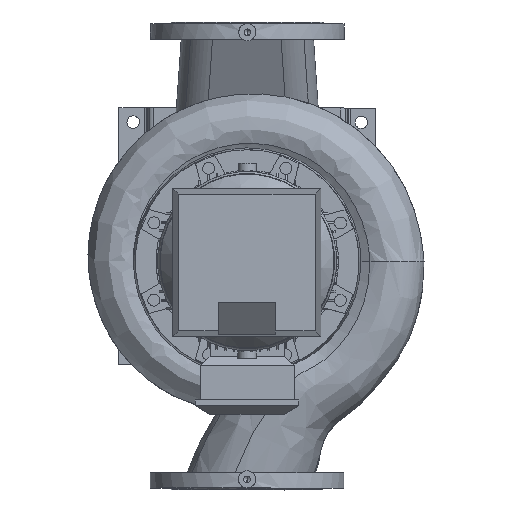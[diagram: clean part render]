
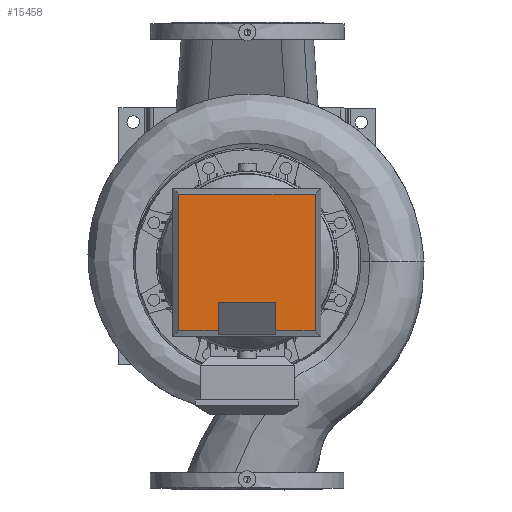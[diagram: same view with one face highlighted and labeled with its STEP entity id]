
A CAD part, top view. The second image highlights one B-rep face of the part: STEP entity #15458.
In plain terms, the highlighted planar face has unit normal (0, 0, 1) as drawn and (0, 1, 0) by its records, which use the part's own axes.
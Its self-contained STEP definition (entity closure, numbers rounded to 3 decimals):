
#15458=ADVANCED_FACE('',(#30445),#30446,.T.);
#15468=EDGE_CURVE('',#30461,#30458,#30462,.T.);
#30445=FACE_OUTER_BOUND('',#55354,.T.);
#30446=PLANE('',#55355);
#30458=VERTEX_POINT('',#55368);
#30461=VERTEX_POINT('',#55373);
#30462=LINE('',#55374,#55375);
#55354=EDGE_LOOP('',(#77441,#77442,#77443,#77444,#77445,#77446,#77447,#77448));
#55355=AXIS2_PLACEMENT_3D('',#77449,#77450,#77451);
#55368=CARTESIAN_POINT('',(-50.0,90.0,199.485));
#55373=CARTESIAN_POINT('',(-50.0,90.0,250.0));
#55374=CARTESIAN_POINT('',(-50.0,90.0,127.834));
#55375=VECTOR('',#77477,1.0);
#77441=ORIENTED_EDGE('',*,*,#81538,.T.);
#77442=ORIENTED_EDGE('',*,*,#81544,.F.);
#77443=ORIENTED_EDGE('',*,*,#81552,.F.);
#77444=ORIENTED_EDGE('',*,*,#81554,.F.);
#77445=ORIENTED_EDGE('',*,*,#81546,.F.);
#77446=ORIENTED_EDGE('',*,*,#81540,.F.);
#77447=ORIENTED_EDGE('',*,*,#15468,.T.);
#77448=ORIENTED_EDGE('',*,*,#81534,.T.);
#77449=CARTESIAN_POINT('',(0.0,90.0,0.0));
#77450=DIRECTION('',(0.0,1.0,-0.0));
#77451=DIRECTION('',(-1.0,0.0,0.0));
#77477=DIRECTION('',(0.0,-0.0,-1.0));
#81534=EDGE_CURVE('',#30458,#86772,#86775,.T.);
#81538=EDGE_CURVE('',#86772,#86778,#86780,.T.);
#81540=EDGE_CURVE('',#30461,#86782,#86783,.T.);
#81544=EDGE_CURVE('',#86788,#86778,#86790,.T.);
#81546=EDGE_CURVE('',#86782,#86792,#86793,.T.);
#81552=EDGE_CURVE('',#86798,#86788,#86800,.T.);
#81554=EDGE_CURVE('',#86792,#86798,#86802,.T.);
#86772=VERTEX_POINT('',#99278);
#86775=LINE('',#99282,#99283);
#86778=VERTEX_POINT('',#99287);
#86780=LINE('',#99290,#99291);
#86782=VERTEX_POINT('',#99293);
#86783=LINE('',#99294,#99295);
#86788=VERTEX_POINT('',#99302);
#86790=LINE('',#99305,#99306);
#86792=VERTEX_POINT('',#99308);
#86793=LINE('',#99309,#99310);
#86798=VERTEX_POINT('',#99318);
#86800=LINE('',#99321,#99322);
#86802=LINE('',#99324,#99325);
#99278=CARTESIAN_POINT('',(50.0,90.0,199.485));
#99282=CARTESIAN_POINT('',(-25.0,90.0,199.485));
#99283=VECTOR('',#102379,1.0);
#99287=CARTESIAN_POINT('',(50.0,90.0,250.0));
#99290=CARTESIAN_POINT('',(50.0,90.0,127.834));
#99291=VECTOR('',#102382,1.0);
#99293=CARTESIAN_POINT('',(-120.0,90.0,250.0));
#99294=CARTESIAN_POINT('',(65.0,90.0,250.0));
#99295=VECTOR('',#102383,1.0);
#99302=CARTESIAN_POINT('',(120.0,90.0,250.0));
#99305=CARTESIAN_POINT('',(65.0,90.0,250.0));
#99306=VECTOR('',#102387,1.0);
#99308=CARTESIAN_POINT('',(-120.0,90.0,10.0));
#99309=CARTESIAN_POINT('',(-120.0,90.0,0.0));
#99310=VECTOR('',#102388,1.0);
#99318=CARTESIAN_POINT('',(120.0,90.0,10.0));
#99321=CARTESIAN_POINT('',(120.0,90.0,0.0));
#99322=VECTOR('',#102393,1.0);
#99324=CARTESIAN_POINT('',(65.0,90.0,10.0));
#99325=VECTOR('',#102394,1.0);
#102379=DIRECTION('',(1.0,0.0,0.0));
#102382=DIRECTION('',(-0.0,0.0,1.0));
#102383=DIRECTION('',(-1.0,0.0,-0.0));
#102387=DIRECTION('',(-1.0,0.0,-0.0));
#102388=DIRECTION('',(-0.0,-0.0,-1.0));
#102393=DIRECTION('',(-0.0,0.0,1.0));
#102394=DIRECTION('',(1.0,-0.0,-0.0));
